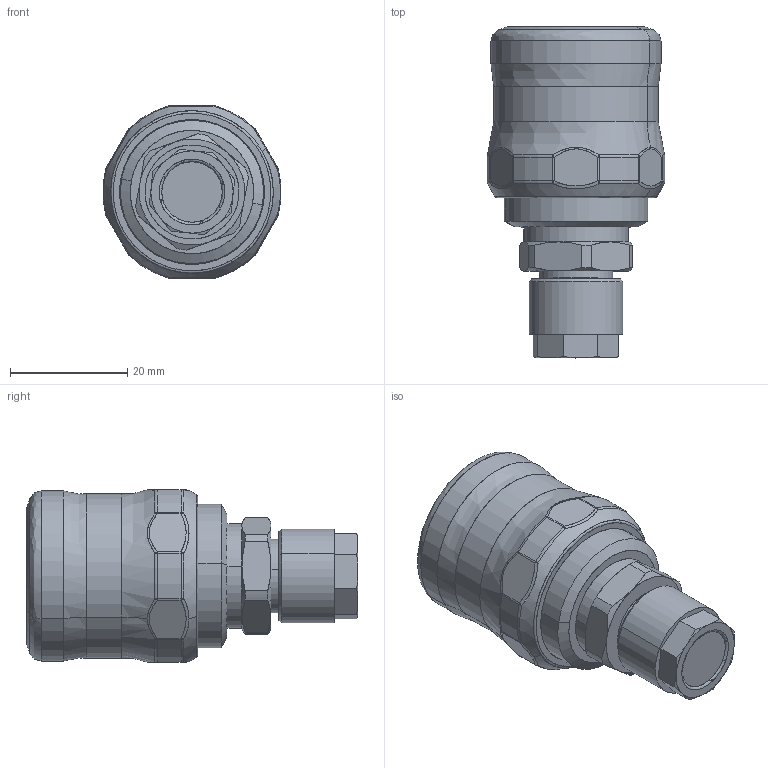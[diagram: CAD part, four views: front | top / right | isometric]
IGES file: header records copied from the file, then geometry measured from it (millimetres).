
Start section: SolidWorks IGES file using analytic representation for surfaces
Global section: file name: K:\Disegni Esecutivi\Serie 600\ASSIEMI\664\664_iges\0066400003A.IGS; native system: SolidWorks 2009; preprocessor: SolidWorks 2009; author: cad05; date: 090709.094509; units: millimetre
Bounding box: 30.29 x 56.5 x 29.4 mm (x, y, z)
Surface area: 6063.2 mm2 (no closed solid volume)
Topology: 0 solids, 0 shells, 197 faces, 2057 edges, 2057 vertices
Faces by surface type: revolution 120, bspline 77
